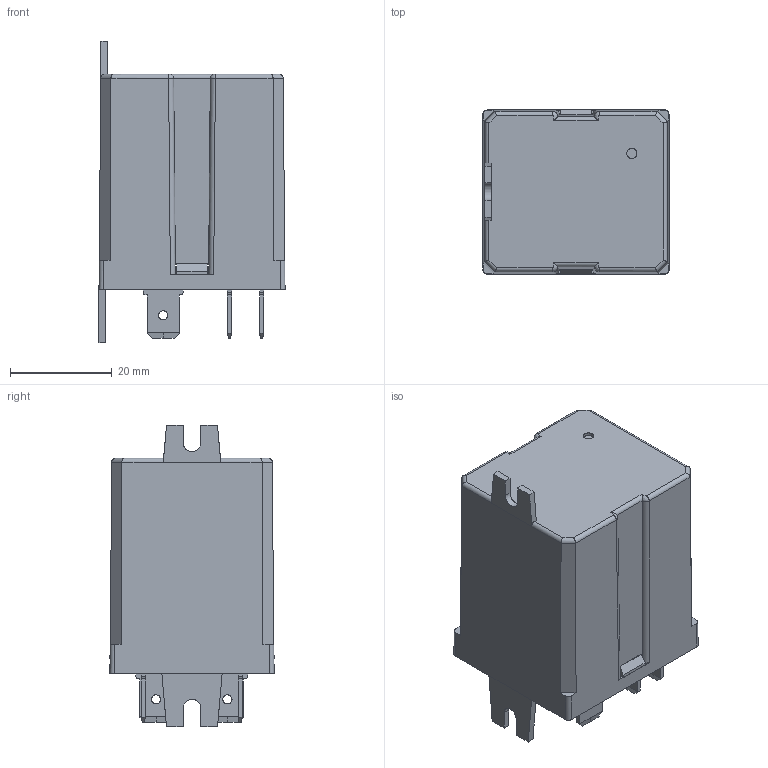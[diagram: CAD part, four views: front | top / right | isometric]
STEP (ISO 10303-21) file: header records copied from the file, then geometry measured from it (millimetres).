
FILE_DESCRIPTION(('STEP AP214'),'2;1');
FILE_NAME('Complessivo 65_31 AC---ok catalogo.stp','2011-05-19T14:57:17',(''),(''),'2007.1.106','THINKDESIGN','');
FILE_SCHEMA(('AUTOMOTIVE_DESIGN'));
Length unit declared in the file: millimetre
Products named in the file (1): None
Bounding box: 36.5 x 32.3 x 59.2 mm (x, y, z)
Surface area: 9186.5 mm2 (no closed solid volume)
Topology: 0 solids, 0 shells, 214 faces, 1140 edges, 1127 vertices
Faces by surface type: plane 131, bspline 52, cylinder 31
Full cylindrical faces by diameter (mm): 1.8 x6, 2 x1, 5 x1
Entity records: 12779 total; most frequent: CARTESIAN_POINT 4868, DIRECTION 1204, COMPOSITE_CURVE_SEGMENT 1140, TRIMMED_CURVE 840, VECTOR 832, LINE 832, B_SPLINE_CURVE_WITH_KNOTS 214, OUTER_BOUNDARY_CURVE 214
